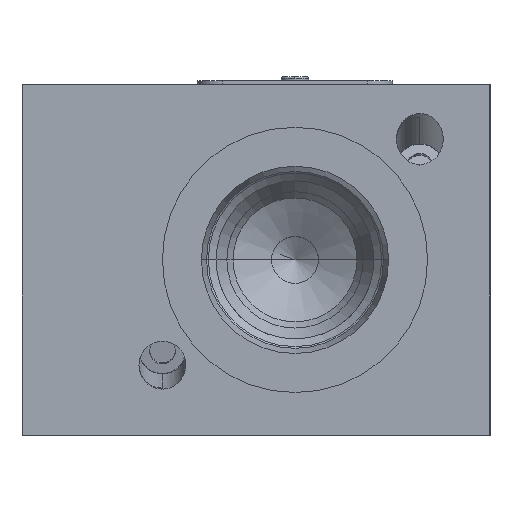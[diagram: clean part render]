
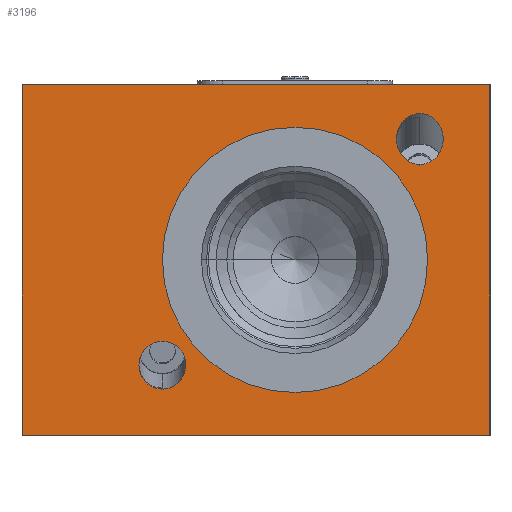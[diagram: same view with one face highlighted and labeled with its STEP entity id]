
A CAD part, left-side view. The second image highlights one B-rep face of the part: STEP entity #3196.
In plain terms, the highlighted planar face has unit normal (-1, 0, 0).
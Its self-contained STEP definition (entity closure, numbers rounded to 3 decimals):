
#75=DIRECTION('',(0.,0.,-1.));
#76=VECTOR('',#75,45.);
#77=CARTESIAN_POINT('',(0.,0.,0.));
#78=LINE('',#77,#76);
#79=DIRECTION('',(0.,1.,0.));
#80=VECTOR('',#79,60.);
#81=CARTESIAN_POINT('',(0.,0.,-45.));
#82=LINE('',#81,#80);
#83=DIRECTION('',(0.,0.,1.));
#84=VECTOR('',#83,45.);
#85=CARTESIAN_POINT('',(0.,60.,-45.));
#86=LINE('',#85,#84);
#87=DIRECTION('',(0.,-1.,0.));
#88=VECTOR('',#87,60.);
#89=CARTESIAN_POINT('',(0.,60.,0.));
#90=LINE('',#89,#88);
#91=CARTESIAN_POINT('',(0.,25.,-22.5));
#92=DIRECTION('',(1.,0.,0.));
#93=DIRECTION('',(0.,-1.,0.));
#94=AXIS2_PLACEMENT_3D('',#91,#92,#93);
#96=CARTESIAN_POINT('',(0.,25.,-22.5));
#97=DIRECTION('',(1.,0.,0.));
#98=DIRECTION('',(0.,1.,0.));
#99=AXIS2_PLACEMENT_3D('',#96,#97,#98);
#101=CARTESIAN_POINT('',(0.,12.,-7.));
#102=CARTESIAN_POINT('',(0.,12.,-7.261));
#103=CARTESIAN_POINT('',(0.,11.945,-7.727));
#104=CARTESIAN_POINT('',(0.,11.76,-8.325));
#105=CARTESIAN_POINT('',(0.,11.494,-8.841));
#106=CARTESIAN_POINT('',(0.,11.158,-9.288));
#107=CARTESIAN_POINT('',(0.,10.754,-9.666));
#108=CARTESIAN_POINT('',(0.,10.276,-9.971));
#109=CARTESIAN_POINT('',(0.,9.808,-10.154));
#110=CARTESIAN_POINT('',(0.,9.373,-10.241));
#111=CARTESIAN_POINT('',(0.,9.13,-10.259));
#112=CARTESIAN_POINT('',(0.,9.,-10.259));
#114=CARTESIAN_POINT('',(0.,42.,-32.933));
#115=CARTESIAN_POINT('',(0.,42.253,-32.933));
#116=CARTESIAN_POINT('',(0.,42.697,-32.995));
#117=CARTESIAN_POINT('',(0.,43.255,-33.194));
#118=CARTESIAN_POINT('',(0.,43.732,-33.476));
#119=CARTESIAN_POINT('',(0.,44.139,-33.827));
#120=CARTESIAN_POINT('',(0.,44.48,-34.245));
#121=CARTESIAN_POINT('',(0.,44.751,-34.732));
#122=CARTESIAN_POINT('',(0.,44.942,-35.3));
#123=CARTESIAN_POINT('',(0.,45.,-35.747));
#124=CARTESIAN_POINT('',(0.,45.,-36.));
#1177=CARTESIAN_POINT('',(0.,42.,-32.933));
#1178=CARTESIAN_POINT('',(0.,41.769,-32.933));
#1179=CARTESIAN_POINT('',(0.,41.27,-32.987));
#1180=CARTESIAN_POINT('',(0.,40.466,-33.31));
#1181=CARTESIAN_POINT('',(0.,39.718,-33.925));
#1182=CARTESIAN_POINT('',(0.,39.175,-34.804));
#1183=CARTESIAN_POINT('',(0.,38.989,-35.648));
#1184=CARTESIAN_POINT('',(0.,39.002,-36.306));
#1185=CARTESIAN_POINT('',(0.,39.085,-36.772));
#1186=CARTESIAN_POINT('',(0.,39.227,-37.198));
#1187=CARTESIAN_POINT('',(0.,39.416,-37.576));
#1188=CARTESIAN_POINT('',(0.,39.6,-37.848));
#1189=CARTESIAN_POINT('',(0.,39.757,-38.04));
#1190=CARTESIAN_POINT('',(0.,39.878,-38.17));
#1191=CARTESIAN_POINT('',(0.,40.005,-38.293));
#1192=CARTESIAN_POINT('',(0.,40.193,-38.454));
#1193=CARTESIAN_POINT('',(0.,40.458,-38.642));
#1194=CARTESIAN_POINT('',(0.,40.828,-38.835));
#1195=CARTESIAN_POINT('',(0.,41.245,-38.98));
#1196=CARTESIAN_POINT('',(0.,41.701,-39.064));
#1197=CARTESIAN_POINT('',(0.,42.344,-39.079));
#1198=CARTESIAN_POINT('',(0.,43.17,-38.888));
#1199=CARTESIAN_POINT('',(0.,44.03,-38.333));
#1200=CARTESIAN_POINT('',(0.,44.631,-37.569));
#1201=CARTESIAN_POINT('',(0.,44.947,-36.746));
#1202=CARTESIAN_POINT('',(0.,45.,-36.236));
#1203=CARTESIAN_POINT('',(0.,45.,-36.));
#2455=CARTESIAN_POINT('',(0.,12.,-7.));
#2456=CARTESIAN_POINT('',(0.,12.,-6.749));
#2457=CARTESIAN_POINT('',(0.,11.947,-6.207));
#2458=CARTESIAN_POINT('',(0.,11.631,-5.333));
#2459=CARTESIAN_POINT('',(0.,11.03,-4.521));
#2460=CARTESIAN_POINT('',(0.,10.17,-3.931));
#2461=CARTESIAN_POINT('',(0.,9.344,-3.729));
#2462=CARTESIAN_POINT('',(0.,8.701,-3.744));
#2463=CARTESIAN_POINT('',(0.,8.245,-3.833));
#2464=CARTESIAN_POINT('',(0.,7.828,-3.988));
#2465=CARTESIAN_POINT('',(0.,7.458,-4.193));
#2466=CARTESIAN_POINT('',(0.,7.193,-4.393));
#2467=CARTESIAN_POINT('',(0.,7.005,-4.563));
#2468=CARTESIAN_POINT('',(0.,6.878,-4.694));
#2469=CARTESIAN_POINT('',(0.,6.757,-4.833));
#2470=CARTESIAN_POINT('',(0.,6.6,-5.037));
#2471=CARTESIAN_POINT('',(0.,6.416,-5.325));
#2472=CARTESIAN_POINT('',(0.,6.227,-5.727));
#2473=CARTESIAN_POINT('',(0.,6.085,-6.18));
#2474=CARTESIAN_POINT('',(0.,6.002,-6.675));
#2475=CARTESIAN_POINT('',(0.,5.989,-7.374));
#2476=CARTESIAN_POINT('',(0.,6.175,-8.271));
#2477=CARTESIAN_POINT('',(0.,6.718,-9.205));
#2478=CARTESIAN_POINT('',(0.,7.466,-9.858));
#2479=CARTESIAN_POINT('',(0.,8.27,-10.201));
#2480=CARTESIAN_POINT('',(0.,8.769,-10.259));
#2481=CARTESIAN_POINT('',(0.,9.,-10.259));
#2812=CARTESIAN_POINT('',(0.,0.,0.));
#2813=CARTESIAN_POINT('',(0.,0.,-45.));
#2814=VERTEX_POINT('',#2812);
#2815=VERTEX_POINT('',#2813);
#2816=CARTESIAN_POINT('',(0.,60.,-45.));
#2817=VERTEX_POINT('',#2816);
#2818=CARTESIAN_POINT('',(0.,60.,0.));
#2819=VERTEX_POINT('',#2818);
#2932=CARTESIAN_POINT('',(0.,8.,-22.5));
#2933=VERTEX_POINT('',#2932);
#2934=CARTESIAN_POINT('',(0.,42.,-22.5));
#2935=VERTEX_POINT('',#2934);
#3067=CARTESIAN_POINT('',(0.,9.,-10.259));
#3068=VERTEX_POINT('',#3067);
#3074=CARTESIAN_POINT('',(0.,12.,-7.));
#3076=VERTEX_POINT('',#3074);
#3097=CARTESIAN_POINT('',(0.,42.,-32.933));
#3098=VERTEX_POINT('',#3097);
#3111=CARTESIAN_POINT('',(0.,45.,-36.));
#3113=VERTEX_POINT('',#3111);
#3163=CARTESIAN_POINT('',(0.,0.,0.));
#3164=DIRECTION('',(1.,0.,0.));
#3165=DIRECTION('',(0.,0.,-1.));
#3166=AXIS2_PLACEMENT_3D('',#3163,#3164,#3165);
#3167=PLANE('',#3166);
#3169=ORIENTED_EDGE('',*,*,#3168,.T.);
#3171=ORIENTED_EDGE('',*,*,#3170,.T.);
#3173=ORIENTED_EDGE('',*,*,#3172,.T.);
#3175=ORIENTED_EDGE('',*,*,#3174,.T.);
#3176=EDGE_LOOP('',(#3169,#3171,#3173,#3175));
#3177=FACE_OUTER_BOUND('',#3176,.F.);
#3179=ORIENTED_EDGE('',*,*,#3178,.F.);
#3181=ORIENTED_EDGE('',*,*,#3180,.F.);
#3182=EDGE_LOOP('',(#3179,#3181));
#3183=FACE_BOUND('',#3182,.F.);
#3185=ORIENTED_EDGE('',*,*,#3184,.F.);
#3187=ORIENTED_EDGE('',*,*,#3186,.T.);
#3188=EDGE_LOOP('',(#3185,#3187));
#3189=FACE_BOUND('',#3188,.F.);
#3191=ORIENTED_EDGE('',*,*,#3190,.F.);
#3193=ORIENTED_EDGE('',*,*,#3192,.T.);
#3194=EDGE_LOOP('',(#3191,#3193));
#3195=FACE_BOUND('',#3194,.F.);
#95=CIRCLE('',#94,17.);
#100=CIRCLE('',#99,17.);
#113=B_SPLINE_CURVE_WITH_KNOTS('',3,(#101,#102,#103,#104,#105,#106,#107,#108,
#109,#110,#111,#112),.UNSPECIFIED.,.F.,.F.,(4,1,1,1,1,1,1,1,1,4),(0.,0.125,
0.25,0.375,0.5,0.625,0.75,0.875,0.938,1.),.UNSPECIFIED.);
#125=B_SPLINE_CURVE_WITH_KNOTS('',3,(#114,#115,#116,#117,#118,#119,#120,#121,
#122,#123,#124),.UNSPECIFIED.,.F.,.F.,(4,1,1,1,1,1,1,1,4),(0.,0.125,0.25,
0.375,0.5,0.625,0.75,0.875,1.),.UNSPECIFIED.);
#1204=B_SPLINE_CURVE_WITH_KNOTS('',3,(#1177,#1178,#1179,#1180,#1181,#1182,#1183,
#1184,#1185,#1186,#1187,#1188,#1189,#1190,#1191,#1192,#1193,#1194,#1195,#1196,
#1197,#1198,#1199,#1200,#1201,#1202,#1203),.UNSPECIFIED.,.F.,.F.,(4,1,1,1,1,1,1,
1,1,1,1,1,1,1,1,1,1,1,1,1,1,1,1,1,4),(0.,0.063,0.125,0.188,0.25,
0.313,0.344,0.375,0.406,0.438,0.469,0.484,0.5,
0.516,0.531,0.563,0.594,0.625,0.656,0.688,0.75,
0.813,0.875,0.938,1.),.UNSPECIFIED.);
#2482=B_SPLINE_CURVE_WITH_KNOTS('',3,(#2455,#2456,#2457,#2458,#2459,#2460,#2461,
#2462,#2463,#2464,#2465,#2466,#2467,#2468,#2469,#2470,#2471,#2472,#2473,#2474,
#2475,#2476,#2477,#2478,#2479,#2480,#2481),.UNSPECIFIED.,.F.,.F.,(4,1,1,1,1,1,1,
1,1,1,1,1,1,1,1,1,1,1,1,1,1,1,1,1,4),(0.,0.063,0.125,0.188,0.25,
0.313,0.344,0.375,0.406,0.438,0.469,0.484,0.5,
0.516,0.531,0.563,0.594,0.625,0.656,0.688,0.75,
0.813,0.875,0.938,1.),.UNSPECIFIED.);
#3168=EDGE_CURVE('',#2814,#2815,#78,.T.);
#3170=EDGE_CURVE('',#2815,#2817,#82,.T.);
#3172=EDGE_CURVE('',#2817,#2819,#86,.T.);
#3174=EDGE_CURVE('',#2819,#2814,#90,.T.);
#3178=EDGE_CURVE('',#2933,#2935,#95,.T.);
#3180=EDGE_CURVE('',#2935,#2933,#100,.T.);
#3184=EDGE_CURVE('',#3076,#3068,#2482,.T.);
#3186=EDGE_CURVE('',#3076,#3068,#113,.T.);
#3190=EDGE_CURVE('',#3098,#3113,#1204,.T.);
#3192=EDGE_CURVE('',#3098,#3113,#125,.T.);
#3196=ADVANCED_FACE('',(#3177,#3183,#3189,#3195),#3167,.F.);
